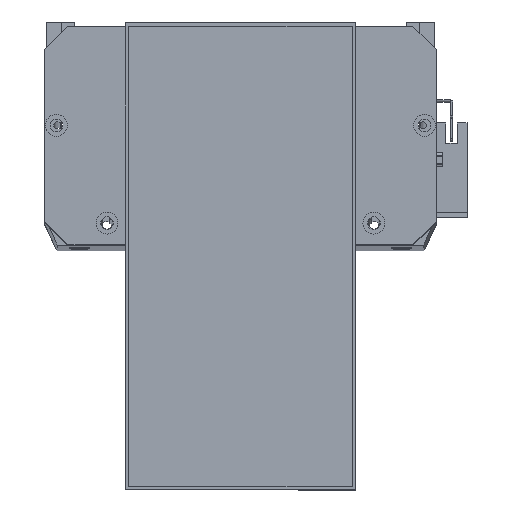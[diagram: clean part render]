
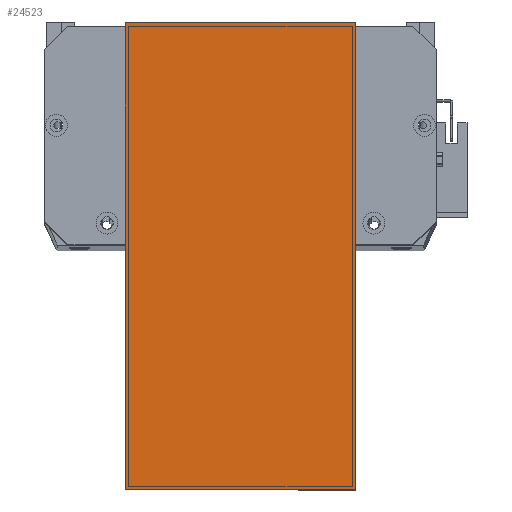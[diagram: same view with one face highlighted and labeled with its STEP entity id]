
A CAD part, top view. The second image highlights one B-rep face of the part: STEP entity #24523.
In plain terms, the highlighted planar face has unit normal (0, 0, 1) as drawn and (0, 0, -1) by its records, which use the part's own axes.
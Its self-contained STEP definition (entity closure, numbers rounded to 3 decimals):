
#173 = PLANE ( 'NONE',  #11352 ) ;
#498 = CARTESIAN_POINT ( 'NONE',  ( 203., 0., 0. ) ) ;
#682 = FACE_OUTER_BOUND ( 'NONE', #14031, .T. ) ;
#1687 = DIRECTION ( 'NONE',  ( 1., 0., 0. ) ) ;
#3548 = VERTEX_POINT ( 'NONE', #15267 ) ;
#3878 = ORIENTED_EDGE ( 'NONE', *, *, #6437, .T. ) ;
#6437 = EDGE_CURVE ( 'NONE', #11725, #28848, #18251, .T. ) ;
#7140 = DIRECTION ( 'NONE',  ( 0., 0., -1. ) ) ;
#8193 = CARTESIAN_POINT ( 'NONE',  ( -12., 119.5, 0. ) ) ;
#9196 = CARTESIAN_POINT ( 'NONE',  ( 0., 119.5, 0. ) ) ;
#9312 = LINE ( 'NONE', #29699, #26952 ) ;
#9866 = LINE ( 'NONE', #15473, #29696 ) ;
#10314 = CARTESIAN_POINT ( 'NONE',  ( 0., 19.5, 0. ) ) ;
#10507 = DIRECTION ( 'NONE',  ( 1., 0., 0. ) ) ;
#11352 = AXIS2_PLACEMENT_3D ( 'NONE', #20898, #7140, #23220 ) ;
#11725 = VERTEX_POINT ( 'NONE', #9196 ) ;
#12066 = LINE ( 'NONE', #498, #18176 ) ;
#12131 = VECTOR ( 'NONE', #10507, 1000. ) ;
#12393 = CARTESIAN_POINT ( 'NONE',  ( 203., 119.5, 0. ) ) ;
#12587 = EDGE_CURVE ( 'NONE', #13036, #3548, #9866, .T. ) ;
#13036 = VERTEX_POINT ( 'NONE', #10314 ) ;
#14031 = EDGE_LOOP ( 'NONE', ( #24499, #16917, #3878, #26653 ) ) ;
#14293 = DIRECTION ( 'NONE',  ( 0., 1., 0. ) ) ;
#15267 = CARTESIAN_POINT ( 'NONE',  ( 203., 19.5, 0. ) ) ;
#15473 = CARTESIAN_POINT ( 'NONE',  ( -12., 19.5, 0. ) ) ;
#15987 = DIRECTION ( 'NONE',  ( 0., -1., 0. ) ) ;
#16654 = EDGE_CURVE ( 'NONE', #3548, #28848, #12066, .T. ) ;
#16917 = ORIENTED_EDGE ( 'NONE', *, *, #20690, .F. ) ;
#18176 = VECTOR ( 'NONE', #14293, 1000. ) ;
#18251 = LINE ( 'NONE', #8193, #12131 ) ;
#20690 = EDGE_CURVE ( 'NONE', #11725, #13036, #9312, .T. ) ;
#20898 = CARTESIAN_POINT ( 'NONE',  ( 0., 0., 0. ) ) ;
#23220 = DIRECTION ( 'NONE',  ( -1., 0., 0. ) ) ;
#24499 = ORIENTED_EDGE ( 'NONE', *, *, #12587, .F. ) ;
#24523 = ADVANCED_FACE ( 'NONE', ( #682 ), #173, .T. ) ;
#26653 = ORIENTED_EDGE ( 'NONE', *, *, #16654, .F. ) ;
#26952 = VECTOR ( 'NONE', #15987, 1000. ) ;
#28848 = VERTEX_POINT ( 'NONE', #12393 ) ;
#29696 = VECTOR ( 'NONE', #1687, 1000. ) ;
#29699 = CARTESIAN_POINT ( 'NONE',  ( 0., 0., 0. ) ) ;
